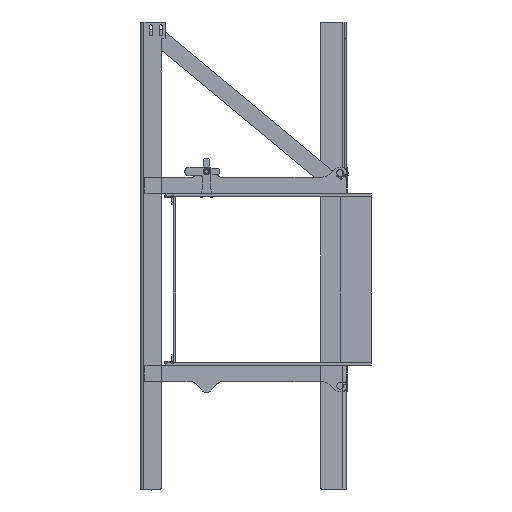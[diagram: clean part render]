
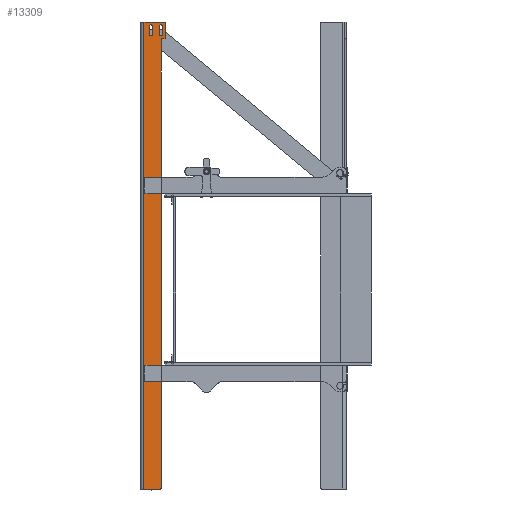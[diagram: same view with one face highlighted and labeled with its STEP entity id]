
A CAD part, left-side view. The second image highlights one B-rep face of the part: STEP entity #13309.
In plain terms, the highlighted planar face has unit normal (-1, 0, 0).
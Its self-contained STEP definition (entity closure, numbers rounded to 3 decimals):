
#775=FACE_BOUND('',#2490,.T.);
#776=FACE_BOUND('',#2491,.T.);
#1086=PLANE('',#14582);
#1745=FACE_OUTER_BOUND('',#2489,.T.);
#2489=EDGE_LOOP('',(#11722,#11723,#11724,#11725,#11726,#11727,#11728,#11729,
#11730,#11731));
#2490=EDGE_LOOP('',(#11732,#11733,#11734,#11735));
#2491=EDGE_LOOP('',(#11736,#11737,#11738,#11739));
#3545=LINE('',#22299,#4687);
#3546=LINE('',#22301,#4688);
#3547=LINE('',#22303,#4689);
#3548=LINE('',#22307,#4690);
#3549=LINE('',#22311,#4691);
#3550=LINE('',#22314,#4692);
#3551=LINE('',#22319,#4693);
#3552=LINE('',#22322,#4694);
#3553=LINE('',#22327,#4695);
#3554=LINE('',#22330,#4696);
#4687=VECTOR('',#17912,10.);
#4688=VECTOR('',#17913,10.);
#4689=VECTOR('',#17914,10.);
#4690=VECTOR('',#17917,10.);
#4691=VECTOR('',#17920,10.);
#4692=VECTOR('',#17923,10.);
#4693=VECTOR('',#17926,10.);
#4694=VECTOR('',#17929,10.);
#4695=VECTOR('',#17932,10.);
#4696=VECTOR('',#17935,10.);
#5422=CIRCLE('',#14583,2.);
#5423=CIRCLE('',#14584,2.);
#5424=CIRCLE('',#14585,4.);
#5425=CIRCLE('',#14586,2.);
#5426=CIRCLE('',#14587,4.5);
#5427=CIRCLE('',#14588,4.5);
#5428=CIRCLE('',#14589,4.5);
#5429=CIRCLE('',#14590,4.5);
#6557=VERTEX_POINT('',#22295);
#6558=VERTEX_POINT('',#22296);
#6559=VERTEX_POINT('',#22298);
#6560=VERTEX_POINT('',#22300);
#6561=VERTEX_POINT('',#22302);
#6562=VERTEX_POINT('',#22304);
#6563=VERTEX_POINT('',#22306);
#6564=VERTEX_POINT('',#22308);
#6565=VERTEX_POINT('',#22310);
#6566=VERTEX_POINT('',#22312);
#6567=VERTEX_POINT('',#22315);
#6568=VERTEX_POINT('',#22316);
#6569=VERTEX_POINT('',#22318);
#6570=VERTEX_POINT('',#22320);
#6571=VERTEX_POINT('',#22323);
#6572=VERTEX_POINT('',#22324);
#6573=VERTEX_POINT('',#22326);
#6574=VERTEX_POINT('',#22328);
#8314=EDGE_CURVE('',#6557,#6558,#5422,.T.);
#8315=EDGE_CURVE('',#6558,#6559,#3545,.T.);
#8316=EDGE_CURVE('',#6559,#6560,#3546,.T.);
#8317=EDGE_CURVE('',#6561,#6560,#3547,.T.);
#8318=EDGE_CURVE('',#6561,#6562,#5423,.T.);
#8319=EDGE_CURVE('',#6562,#6563,#3548,.T.);
#8320=EDGE_CURVE('',#6563,#6564,#5424,.T.);
#8321=EDGE_CURVE('',#6565,#6564,#3549,.T.);
#8322=EDGE_CURVE('',#6565,#6566,#5425,.T.);
#8323=EDGE_CURVE('',#6557,#6566,#3550,.T.);
#8324=EDGE_CURVE('',#6567,#6568,#5426,.T.);
#8325=EDGE_CURVE('',#6569,#6567,#3551,.T.);
#8326=EDGE_CURVE('',#6570,#6569,#5427,.T.);
#8327=EDGE_CURVE('',#6568,#6570,#3552,.T.);
#8328=EDGE_CURVE('',#6571,#6572,#5428,.T.);
#8329=EDGE_CURVE('',#6573,#6571,#3553,.T.);
#8330=EDGE_CURVE('',#6574,#6573,#5429,.T.);
#8331=EDGE_CURVE('',#6572,#6574,#3554,.T.);
#11722=ORIENTED_EDGE('',*,*,#8314,.T.);
#11723=ORIENTED_EDGE('',*,*,#8315,.T.);
#11724=ORIENTED_EDGE('',*,*,#8316,.T.);
#11725=ORIENTED_EDGE('',*,*,#8317,.F.);
#11726=ORIENTED_EDGE('',*,*,#8318,.T.);
#11727=ORIENTED_EDGE('',*,*,#8319,.T.);
#11728=ORIENTED_EDGE('',*,*,#8320,.T.);
#11729=ORIENTED_EDGE('',*,*,#8321,.F.);
#11730=ORIENTED_EDGE('',*,*,#8322,.T.);
#11731=ORIENTED_EDGE('',*,*,#8323,.F.);
#11732=ORIENTED_EDGE('',*,*,#8324,.F.);
#11733=ORIENTED_EDGE('',*,*,#8325,.F.);
#11734=ORIENTED_EDGE('',*,*,#8326,.F.);
#11735=ORIENTED_EDGE('',*,*,#8327,.F.);
#11736=ORIENTED_EDGE('',*,*,#8328,.F.);
#11737=ORIENTED_EDGE('',*,*,#8329,.F.);
#11738=ORIENTED_EDGE('',*,*,#8330,.F.);
#11739=ORIENTED_EDGE('',*,*,#8331,.F.);
#13309=ADVANCED_FACE('',(#1745,#775,#776),#1086,.T.);
#14582=AXIS2_PLACEMENT_3D('',#22294,#17908,#17909);
#14583=AXIS2_PLACEMENT_3D('',#22297,#17910,#17911);
#14584=AXIS2_PLACEMENT_3D('',#22305,#17915,#17916);
#14585=AXIS2_PLACEMENT_3D('',#22309,#17918,#17919);
#14586=AXIS2_PLACEMENT_3D('',#22313,#17921,#17922);
#14587=AXIS2_PLACEMENT_3D('',#22317,#17924,#17925);
#14588=AXIS2_PLACEMENT_3D('',#22321,#17927,#17928);
#14589=AXIS2_PLACEMENT_3D('',#22325,#17930,#17931);
#14590=AXIS2_PLACEMENT_3D('',#22329,#17933,#17934);
#17908=DIRECTION('center_axis',(-1.,0.,0.));
#17909=DIRECTION('ref_axis',(0.,0.,
-1.));
#17910=DIRECTION('center_axis',(-1.,0.,0.));
#17911=DIRECTION('ref_axis',(0.,-0.707,0.707));
#17912=DIRECTION('',(0.,1.,0.));
#17913=DIRECTION('',(0.,0.,-1.));
#17914=DIRECTION('',(0.,1.,0.));
#17915=DIRECTION('center_axis',(-1.,0.,0.));
#17916=DIRECTION('ref_axis',(0.,-0.707,-0.707));
#17917=DIRECTION('',(0.,0.,1.));
#17918=DIRECTION('center_axis',(1.,0.,0.));
#17919=DIRECTION('ref_axis',(0.,0.707,0.707));
#17920=DIRECTION('',(0.,1.,0.));
#17921=DIRECTION('center_axis',(-1.,0.,0.));
#17922=DIRECTION('ref_axis',(0.,-0.707,-0.707));
#17923=DIRECTION('',(0.,0.,-1.));
#17924=DIRECTION('center_axis',(-1.,0.,0.));
#17925=DIRECTION('ref_axis',(0.,-1.,0.));
#17926=DIRECTION('',(0.,0.,-1.));
#17927=DIRECTION('center_axis',(-1.,0.,0.));
#17928=DIRECTION('ref_axis',(0.,1.,0.));
#17929=DIRECTION('',(0.,0.,1.));
#17930=DIRECTION('center_axis',(-1.,0.,0.));
#17931=DIRECTION('ref_axis',(0.,-1.,0.));
#17932=DIRECTION('',(0.,0.,-1.));
#17933=DIRECTION('center_axis',(-1.,0.,0.));
#17934=DIRECTION('ref_axis',(0.,1.,0.));
#17935=DIRECTION('',(0.,0.,1.));
#22294=CARTESIAN_POINT('Origin',(-1020.,695.391,-177.5));
#22295=CARTESIAN_POINT('',(-1020.,617.5,522.));
#22296=CARTESIAN_POINT('',(-1020.,619.5,524.));
#22297=CARTESIAN_POINT('Origin',(-1020.,619.5,522.));
#22298=CARTESIAN_POINT('',(-1020.,683.25,524.));
#22299=CARTESIAN_POINT('',(-1020.,631.1,524.));
#22300=CARTESIAN_POINT('',(-1020.,683.25,-879.));
#22301=CARTESIAN_POINT('',(-1020.,683.25,-177.5));
#22302=CARTESIAN_POINT('',(-1020.,633.1,-879.));
#22303=CARTESIAN_POINT('',(-1020.,631.1,-879.));
#22304=CARTESIAN_POINT('',(-1020.,631.1,-877.));
#22305=CARTESIAN_POINT('Origin',(-1020.,633.1,-877.));
#22306=CARTESIAN_POINT('',(-1020.,631.1,470.));
#22307=CARTESIAN_POINT('',(-1020.,631.1,-879.));
#22308=CARTESIAN_POINT('',(-1020.,627.1,474.));
#22309=CARTESIAN_POINT('Origin',(-1020.,627.1,470.));
#22310=CARTESIAN_POINT('',(-1020.,619.5,474.));
#22311=CARTESIAN_POINT('',(-1020.,617.5,474.));
#22312=CARTESIAN_POINT('',(-1020.,617.5,476.));
#22313=CARTESIAN_POINT('Origin',(-1020.,619.5,476.));
#22314=CARTESIAN_POINT('',(-1020.,617.5,524.));
#22315=CARTESIAN_POINT('',(-1020.,637.,486.5));
#22316=CARTESIAN_POINT('',(-1020.,628.,486.5));
#22317=CARTESIAN_POINT('Origin',(-1020.,632.5,486.5));
#22318=CARTESIAN_POINT('',(-1020.,637.,511.5));
#22319=CARTESIAN_POINT('',(-1020.,637.,167.));
#22320=CARTESIAN_POINT('',(-1020.,628.,511.5));
#22321=CARTESIAN_POINT('Origin',(-1020.,632.5,511.5));
#22322=CARTESIAN_POINT('',(-1020.,628.,154.5));
#22323=CARTESIAN_POINT('',(-1020.,667.,486.5));
#22324=CARTESIAN_POINT('',(-1020.,658.,486.5));
#22325=CARTESIAN_POINT('Origin',(-1020.,662.5,486.5));
#22326=CARTESIAN_POINT('',(-1020.,667.,511.5));
#22327=CARTESIAN_POINT('',(-1020.,667.,167.));
#22328=CARTESIAN_POINT('',(-1020.,658.,511.5));
#22329=CARTESIAN_POINT('Origin',(-1020.,662.5,511.5));
#22330=CARTESIAN_POINT('',(-1020.,658.,154.5));
